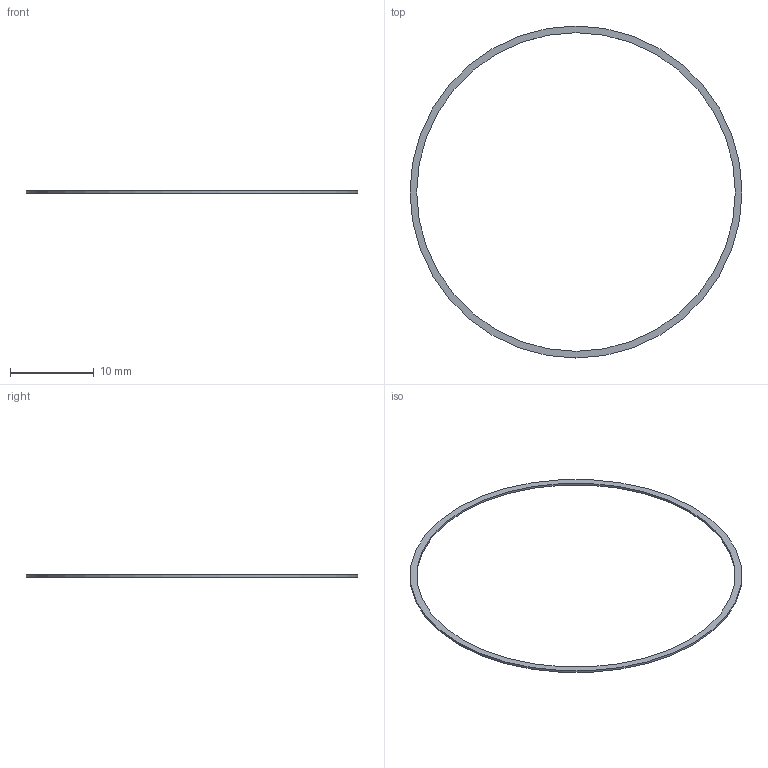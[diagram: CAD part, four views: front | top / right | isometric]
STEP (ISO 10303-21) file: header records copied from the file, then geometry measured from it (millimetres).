
FILE_DESCRIPTION(/* description */ (''),/* implementation_level */ '2;1');
FILE_NAME(/* name */ 'C27_R2_Speaker_Front_Gasket.step',/* time_stamp */ '2026-09-10T17:49:02-07:00',/* author */ (''),/* organization */ (''),/* preprocessor_version */ 'ST-DEVELOPER v20.1',/* originating_system */ 'Autodesk Translation Framework v15.8.0.0',/* authorisation */ '');
FILE_SCHEMA (('AUTOMOTIVE_DESIGN { 1 0 10303 214 3 1 1 }'));
Length unit declared in the file: millimetre
Products named in the file (1): 2026-09-10-17-49-02-510
Bounding box: 39.6 x 39.6 x 0.25 mm (x, y, z)
Volume: 24.4 mm3; surface area: 256 mm2
Topology: 1 solids, 1 shells, 4 faces, 6 edges, 4 vertices
Faces by surface type: cylinder 2, plane 2
Full cylindrical faces by diameter (mm): 38 x1, 39.6 x1
Entity records: 131 total; most frequent: DIRECTION 20, CARTESIAN_POINT 15, ORIENTED_EDGE 12, AXIS2_PLACEMENT_3D 9, EDGE_LOOP 6, EDGE_CURVE 6, FACE_OUTER_BOUND 4, CIRCLE 4
